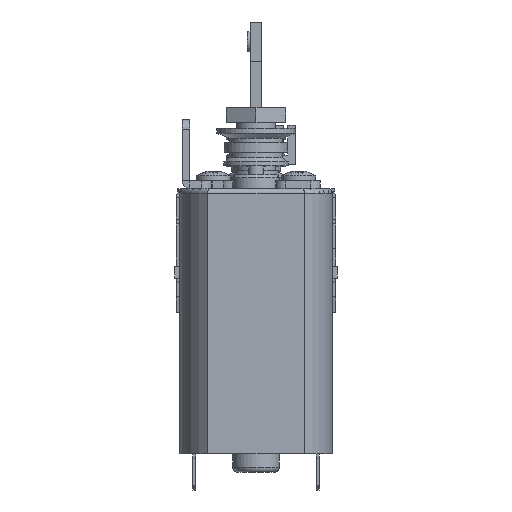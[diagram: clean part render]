
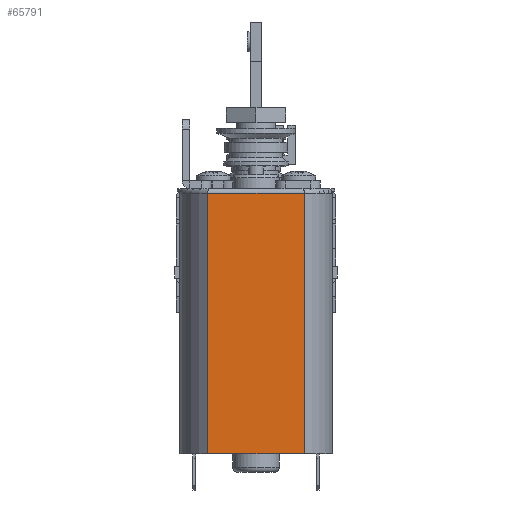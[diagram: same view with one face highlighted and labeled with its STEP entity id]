
A CAD part, left-side view. The second image highlights one B-rep face of the part: STEP entity #65791.
In plain terms, the highlighted planar face has unit normal (-1, 0, 0).
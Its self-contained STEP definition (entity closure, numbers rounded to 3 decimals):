
#56270 = VERTEX_POINT('',#56271);
#56271 = CARTESIAN_POINT('',(-80.5,4.905,-8.7));
#56315 = CYLINDRICAL_SURFACE('',#56316,0.5);
#56316 = AXIS2_PLACEMENT_3D('',#56317,#56318,#56319);
#56317 = CARTESIAN_POINT('',(-80.,-4.905,-8.7));
#56318 = DIRECTION('',(0.,1.,0.));
#56319 = DIRECTION('',(0.,0.,1.));
#56357 = CYLINDRICAL_SURFACE('',#56358,7.75);
#56358 = AXIS2_PLACEMENT_3D('',#56359,#56360,#56361);
#56359 = CARTESIAN_POINT('',(-74.5,0.,-8.2));
#56360 = DIRECTION('',(0.,0.,1.));
#56361 = DIRECTION('',(0.,-1.,0.));
#60980 = VERTEX_POINT('',#60981);
#60981 = CARTESIAN_POINT('',(-80.5,-4.905,-8.7));
#61047 = EDGE_CURVE('',#60980,#56270,#61048,.T.);
#61048 = SURFACE_CURVE('',#61049,(#61053,#61060),.PCURVE_S1.);
#61049 = LINE('',#61050,#61051);
#61050 = CARTESIAN_POINT('',(-80.5,-4.905,-8.7));
#61051 = VECTOR('',#61052,1.);
#61052 = DIRECTION('',(0.,1.,0.));
#61053 = PCURVE('',#56315,#61054);
#61054 = DEFINITIONAL_REPRESENTATION('',(#61055),#61059);
#61055 = LINE('',#61056,#61057);
#61056 = CARTESIAN_POINT('',(-1.571,0.));
#61057 = VECTOR('',#61058,1.);
#61058 = DIRECTION('',(-0.,1.));
#61059 = ( GEOMETRIC_REPRESENTATION_CONTEXT(2) 
PARAMETRIC_REPRESENTATION_CONTEXT() REPRESENTATION_CONTEXT('2D SPACE',''
  ) );
#61060 = PCURVE('',#61061,#61066);
#61061 = PLANE('',#61062);
#61062 = AXIS2_PLACEMENT_3D('',#61063,#61064,#61065);
#61063 = CARTESIAN_POINT('',(-80.5,12.,-41.2));
#61064 = DIRECTION('',(1.,0.,0.));
#61065 = DIRECTION('',(0.,0.,1.));
#61066 = DEFINITIONAL_REPRESENTATION('',(#61067),#61071);
#61067 = LINE('',#61068,#61069);
#61068 = CARTESIAN_POINT('',(32.5,16.905));
#61069 = VECTOR('',#61070,1.);
#61070 = DIRECTION('',(0.,-1.));
#61071 = ( GEOMETRIC_REPRESENTATION_CONTEXT(2) 
PARAMETRIC_REPRESENTATION_CONTEXT() REPRESENTATION_CONTEXT('2D SPACE',''
  ) );
#61105 = EDGE_CURVE('',#61106,#56270,#61108,.T.);
#61106 = VERTEX_POINT('',#61107);
#61107 = CARTESIAN_POINT('',(-80.5,4.905,-35.1));
#61108 = SURFACE_CURVE('',#61109,(#61113,#61119),.PCURVE_S1.);
#61109 = LINE('',#61110,#61111);
#61110 = CARTESIAN_POINT('',(-80.5,4.905,-8.2));
#61111 = VECTOR('',#61112,1.);
#61112 = DIRECTION('',(0.,0.,1.));
#61113 = PCURVE('',#56357,#61114);
#61114 = DEFINITIONAL_REPRESENTATION('',(#61115),#61118);
#61115 = B_SPLINE_CURVE_WITH_KNOTS('',1,(#61116,#61117),.UNSPECIFIED.,
  .F.,.F.,(2,2),(-26.9,0.),.PIECEWISE_BEZIER_KNOTS.);
#61116 = CARTESIAN_POINT('',(4.027,-26.9));
#61117 = CARTESIAN_POINT('',(4.027,0.));
#61118 = ( GEOMETRIC_REPRESENTATION_CONTEXT(2) 
PARAMETRIC_REPRESENTATION_CONTEXT() REPRESENTATION_CONTEXT('2D SPACE',''
  ) );
#61119 = PCURVE('',#61061,#61120);
#61120 = DEFINITIONAL_REPRESENTATION('',(#61121),#61124);
#61121 = B_SPLINE_CURVE_WITH_KNOTS('',1,(#61122,#61123),.UNSPECIFIED.,
  .F.,.F.,(2,2),(-26.9,0.),.PIECEWISE_BEZIER_KNOTS.);
#61122 = CARTESIAN_POINT('',(6.1,7.095));
#61123 = CARTESIAN_POINT('',(33.,7.095));
#61124 = ( GEOMETRIC_REPRESENTATION_CONTEXT(2) 
PARAMETRIC_REPRESENTATION_CONTEXT() REPRESENTATION_CONTEXT('2D SPACE',''
  ) );
#61163 = PLANE('',#61164);
#61164 = AXIS2_PLACEMENT_3D('',#61165,#61166,#61167);
#61165 = CARTESIAN_POINT('',(-74.5,0.,-35.1));
#61166 = DIRECTION('',(0.,0.,1.));
#61167 = DIRECTION('',(0.,-1.,0.));
#61239 = CYLINDRICAL_SURFACE('',#61240,7.75);
#61240 = AXIS2_PLACEMENT_3D('',#61241,#61242,#61243);
#61241 = CARTESIAN_POINT('',(-74.5,0.,-8.2));
#61242 = DIRECTION('',(0.,0.,1.));
#61243 = DIRECTION('',(0.,-1.,0.));
#65791 = ADVANCED_FACE('',(#65792),#61061,.F.);
#65792 = FACE_BOUND('',#65793,.F.);
#65793 = EDGE_LOOP('',(#65794,#65795,#65796,#65817));
#65794 = ORIENTED_EDGE('',*,*,#61105,.T.);
#65795 = ORIENTED_EDGE('',*,*,#61047,.F.);
#65796 = ORIENTED_EDGE('',*,*,#65797,.F.);
#65797 = EDGE_CURVE('',#65798,#60980,#65800,.T.);
#65798 = VERTEX_POINT('',#65799);
#65799 = CARTESIAN_POINT('',(-80.5,-4.905,-35.1));
#65800 = SURFACE_CURVE('',#65801,(#65805,#65811),.PCURVE_S1.);
#65801 = LINE('',#65802,#65803);
#65802 = CARTESIAN_POINT('',(-80.5,-4.905,-8.2));
#65803 = VECTOR('',#65804,1.);
#65804 = DIRECTION('',(0.,0.,1.));
#65805 = PCURVE('',#61061,#65806);
#65806 = DEFINITIONAL_REPRESENTATION('',(#65807),#65810);
#65807 = B_SPLINE_CURVE_WITH_KNOTS('',1,(#65808,#65809),.UNSPECIFIED.,
  .F.,.F.,(2,2),(-26.9,0.),.PIECEWISE_BEZIER_KNOTS.);
#65808 = CARTESIAN_POINT('',(6.1,16.905));
#65809 = CARTESIAN_POINT('',(33.,16.905));
#65810 = ( GEOMETRIC_REPRESENTATION_CONTEXT(2) 
PARAMETRIC_REPRESENTATION_CONTEXT() REPRESENTATION_CONTEXT('2D SPACE',''
  ) );
#65811 = PCURVE('',#61239,#65812);
#65812 = DEFINITIONAL_REPRESENTATION('',(#65813),#65816);
#65813 = B_SPLINE_CURVE_WITH_KNOTS('',1,(#65814,#65815),.UNSPECIFIED.,
  .F.,.F.,(2,2),(-26.9,0.),.PIECEWISE_BEZIER_KNOTS.);
#65814 = CARTESIAN_POINT('',(5.398,-26.9));
#65815 = CARTESIAN_POINT('',(5.398,0.));
#65816 = ( GEOMETRIC_REPRESENTATION_CONTEXT(2) 
PARAMETRIC_REPRESENTATION_CONTEXT() REPRESENTATION_CONTEXT('2D SPACE',''
  ) );
#65817 = ORIENTED_EDGE('',*,*,#65818,.T.);
#65818 = EDGE_CURVE('',#65798,#61106,#65819,.T.);
#65819 = SURFACE_CURVE('',#65820,(#65824,#65830),.PCURVE_S1.);
#65820 = LINE('',#65821,#65822);
#65821 = CARTESIAN_POINT('',(-80.5,6.,-35.1));
#65822 = VECTOR('',#65823,1.);
#65823 = DIRECTION('',(0.,1.,0.));
#65824 = PCURVE('',#61061,#65825);
#65825 = DEFINITIONAL_REPRESENTATION('',(#65826),#65829);
#65826 = B_SPLINE_CURVE_WITH_KNOTS('',1,(#65827,#65828),.UNSPECIFIED.,
  .F.,.F.,(2,2),(-13.75,1.75),.PIECEWISE_BEZIER_KNOTS.);
#65827 = CARTESIAN_POINT('',(6.1,19.75));
#65828 = CARTESIAN_POINT('',(6.1,4.25));
#65829 = ( GEOMETRIC_REPRESENTATION_CONTEXT(2) 
PARAMETRIC_REPRESENTATION_CONTEXT() REPRESENTATION_CONTEXT('2D SPACE',''
  ) );
#65830 = PCURVE('',#61163,#65831);
#65831 = DEFINITIONAL_REPRESENTATION('',(#65832),#65835);
#65832 = B_SPLINE_CURVE_WITH_KNOTS('',1,(#65833,#65834),.UNSPECIFIED.,
  .F.,.F.,(2,2),(-13.75,1.75),.PIECEWISE_BEZIER_KNOTS.);
#65833 = CARTESIAN_POINT('',(7.75,-6.));
#65834 = CARTESIAN_POINT('',(-7.75,-6.));
#65835 = ( GEOMETRIC_REPRESENTATION_CONTEXT(2) 
PARAMETRIC_REPRESENTATION_CONTEXT() REPRESENTATION_CONTEXT('2D SPACE',''
  ) );
